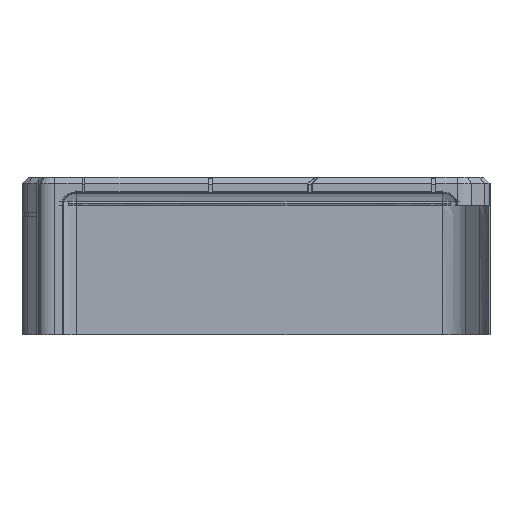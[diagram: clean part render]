
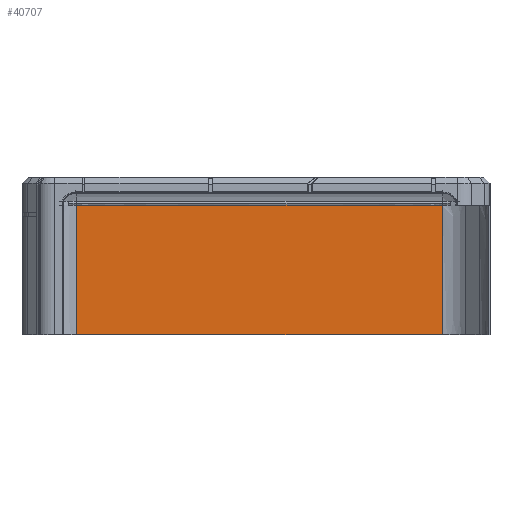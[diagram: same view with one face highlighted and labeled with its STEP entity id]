
A CAD part, front view. The second image highlights one B-rep face of the part: STEP entity #40707.
In plain terms, the highlighted planar face has unit normal (0, -1, 0).
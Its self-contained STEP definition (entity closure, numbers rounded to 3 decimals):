
#7213=DIRECTION('',(-1.,0.,0.));
#7214=VECTOR('',#7213,90.451);
#7215=CARTESIAN_POINT('',(45.225,129.202,-15.436));
#7216=LINE('',#7215,#7214);
#7226=CARTESIAN_POINT('',(45.225,129.202,-15.436));
#14870=DIRECTION('',(0.,0.,-1.));
#14871=VECTOR('',#14870,32.);
#14872=CARTESIAN_POINT('',(-45.225,129.202,
16.564));
#14873=LINE('',#14872,#14871);
#14903=CARTESIAN_POINT('',(-45.225,129.202,
16.564));
#14940=CARTESIAN_POINT('',(45.225,129.202,16.564));
#14950=DIRECTION('',(-1.,0.,0.));
#14951=VECTOR('',#14950,90.45);
#14952=CARTESIAN_POINT('',(45.225,129.202,16.564));
#14953=LINE('',#14952,#14951);
#14954=DIRECTION('',(0.,0.,-1.));
#14955=VECTOR('',#14954,32.);
#14956=CARTESIAN_POINT('',(45.225,129.202,16.564));
#14957=LINE('',#14956,#14955);
#16851=VERTEX_POINT('',#14903);
#16852=VERTEX_POINT('',#14940);
#17096=VERTEX_POINT('',#7226);
#17097=CARTESIAN_POINT('',(-45.226,129.202,
-15.436));
#17098=VERTEX_POINT('',#17097);
#40696=CARTESIAN_POINT('',(45.225,129.202,16.564));
#40697=DIRECTION('',(0.,-1.,0.));
#40698=DIRECTION('',(-1.,0.,0.));
#40699=AXIS2_PLACEMENT_3D('',#40696,#40697,#40698);
#40700=PLANE('',#40699);
#40701=ORIENTED_EDGE('',*,*,#40691,.F.);
#40702=ORIENTED_EDGE('',*,*,#39998,.T.);
#40703=ORIENTED_EDGE('',*,*,#27685,.T.);
#40704=ORIENTED_EDGE('',*,*,#40462,.F.);
#40705=EDGE_LOOP('',(#40701,#40702,#40703,#40704));
#40706=FACE_OUTER_BOUND('',#40705,.F.);
#27685=EDGE_CURVE('',#17096,#17098,#7216,.T.);
#39998=EDGE_CURVE('',#16852,#17096,#14957,.T.);
#40462=EDGE_CURVE('',#16851,#17098,#14873,.T.);
#40691=EDGE_CURVE('',#16852,#16851,#14953,.T.);
#40707=ADVANCED_FACE('',(#40706),#40700,.T.);
